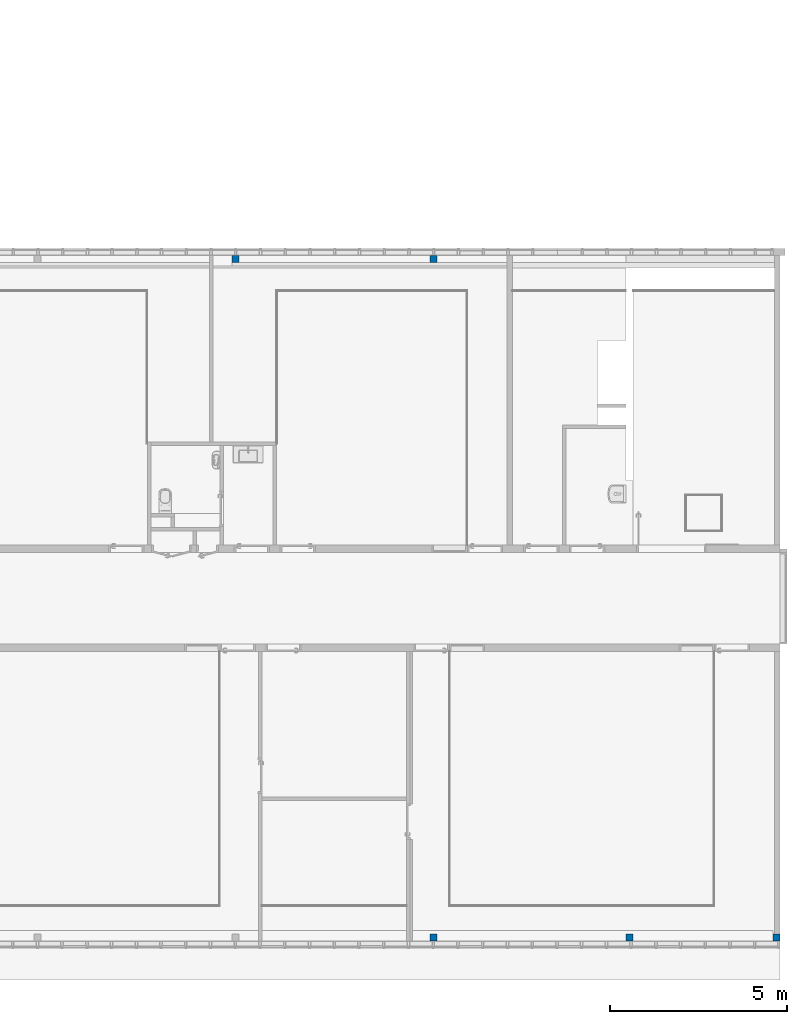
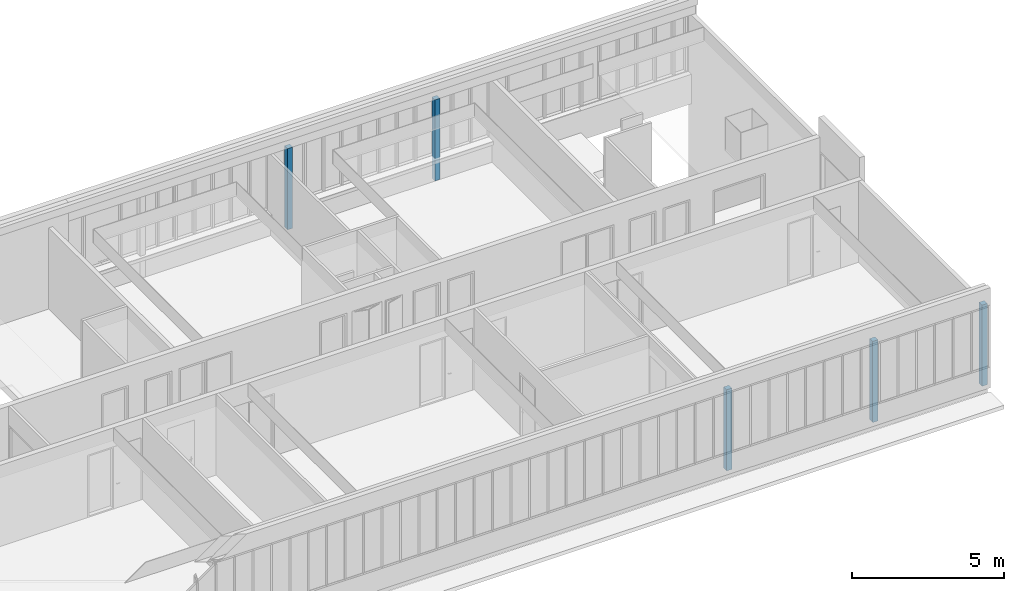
# One storey, part 2 of 87: 5 columns.
"""IFC2X3 building model written with IfcOpenShell, lengths in centimetres."""

from ifc_helpers import new_model, entity, si_unit, converted_unit, derived_unit, direction, frame, origin, origin_2d_with_axis, place, context, subcontext, project, spatial, rectangle, extrude, source, transform, mapped, material, type_object, type_shapes, element, save


model = new_model("IFC2X3")

# Units and contexts
model_context = context("Model", 3, precision=0.001, world=origin(), true_north=direction((6.12303176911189e-17, 1.0)))
body_context = subcontext(model_context, "Body", "Model", "MODEL_VIEW")
ifc_project = project(units=[si_unit("LENGTHUNIT", "METRE", prefix="CENTI"), si_unit("AREAUNIT", "SQUARE_METRE"), si_unit("VOLUMEUNIT", "CUBIC_METRE"), converted_unit("PLANEANGLEUNIT", "DEGREE", entity("IfcRatioMeasure", 0.0174532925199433), si_unit("PLANEANGLEUNIT", "RADIAN"), dimensions=[0, 0, 0, 0, 0, 0, 0]), si_unit("MASSUNIT", "GRAM", prefix="KILO"), derived_unit("MASSDENSITYUNIT", [(si_unit("MASSUNIT", "GRAM", prefix="KILO"), 1), (si_unit("LENGTHUNIT", "METRE"), -3)]), si_unit("TIMEUNIT", "SECOND"), si_unit("FREQUENCYUNIT", "HERTZ"), si_unit("THERMODYNAMICTEMPERATUREUNIT", "DEGREE_CELSIUS"), derived_unit("THERMALTRANSMITTANCEUNIT", [(si_unit("MASSUNIT", "GRAM", prefix="KILO"), 1), (si_unit("THERMODYNAMICTEMPERATUREUNIT", "KELVIN"), -1), (si_unit("TIMEUNIT", "SECOND"), -3)]), derived_unit("VOLUMETRICFLOWRATEUNIT", [(si_unit("LENGTHUNIT", "METRE"), 3), (si_unit("TIMEUNIT", "SECOND"), -1)]), si_unit("ELECTRICCURRENTUNIT", "AMPERE"), si_unit("ELECTRICVOLTAGEUNIT", "VOLT"), si_unit("POWERUNIT", "WATT"), si_unit("FORCEUNIT", "NEWTON", prefix="KILO"), si_unit("ILLUMINANCEUNIT", "LUX"), si_unit("LUMINOUSFLUXUNIT", "LUMEN"), si_unit("LUMINOUSINTENSITYUNIT", "CANDELA"), derived_unit("USERDEFINED", [(si_unit("MASSUNIT", "GRAM", prefix="KILO"), -1), (si_unit("LENGTHUNIT", "METRE"), -2), (si_unit("TIMEUNIT", "SECOND"), 3), (si_unit("LUMINOUSFLUXUNIT", "LUMEN"), 1)]), derived_unit("LINEARVELOCITYUNIT", [(si_unit("LENGTHUNIT", "METRE"), 1), (si_unit("TIMEUNIT", "SECOND"), -1)]), si_unit("PRESSUREUNIT", "PASCAL"), derived_unit("USERDEFINED", [(si_unit("LENGTHUNIT", "METRE"), -2), (si_unit("MASSUNIT", "GRAM", prefix="KILO"), 1), (si_unit("TIMEUNIT", "SECOND"), -2)])], contexts=[model_context])

# Site, building, storey
site_placement = place(None, frame((-2781.94577612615, 7442.24238424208, 0.0)))
site = spatial("IfcSite", under=ifc_project, at=site_placement, Name="Default", CompositionType="ELEMENT")
building_placement = place(site_placement, origin())
building = spatial("IfcBuilding", under=site, at=building_placement, CompositionType="ELEMENT")
storey_placement = place(building_placement, frame((0.0, 0.0, 774.0)))
storey = spatial("IfcBuildingStorey", under=building, at=storey_placement, Name="TR - N02 - ARCH", CompositionType="ELEMENT", Elevation=774.0)

# Columns
ifc_material = material(Name="Maçonnerie - Béton coulé sur place")
column_type = type_object("IfcColumnType", Name="200mm x 200mm", PredefinedType="COLUMN")
shared_shape = source(origin(), body_context, "Body", "SweptSolid", [
    extrude(rectangle(XDim=20.0, YDim=20.0, at=origin_2d_with_axis()), frame((0.0, 0.0, 774.0), z_axis=(0.0, 0.0, 1.0), x_axis=(0.0, -1.0, 0.0)), (0.0, 0.0, 1.0), 326.0),
])
type_shapes(column_type, [shared_shape])
for number, where in (
    (1, (-1389.99987760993, -3020.31349958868, -774.0)),
    (2, (-835.299882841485, -3020.31349958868, -774.0)),
    (3, (-419.999882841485, -3020.31349958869, -774.0)),
    (4, (-1949.99987566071, -1100.0, -774.0)),
    (5, (-1389.99987955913, -1100.0, -774.0)),
):
    element("IfcColumn", number, at=place(storey_placement, frame(where)), inside=storey, type_object=column_type, material=ifc_material, Name="Poteau béton - Carré:200mm x 200mm", ObjectType="Poteau béton - Carré:200mm x 200mm", context=body_context, shape_type="MappedRepresentation", body=[
        mapped(shared_shape, transform((0.0, 0.0, 0.0), scale=1.0)),
    ])

save(model, "model.ifc")
